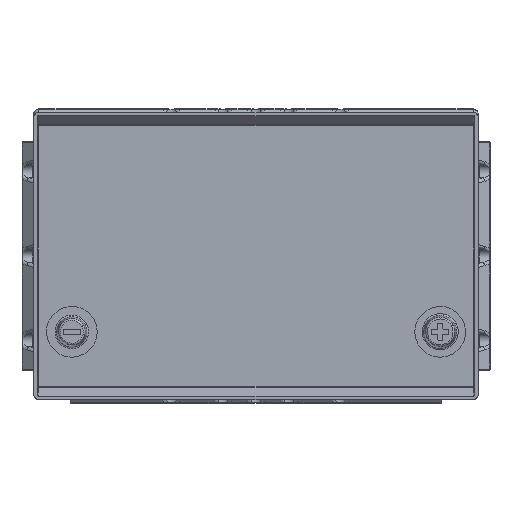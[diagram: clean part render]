
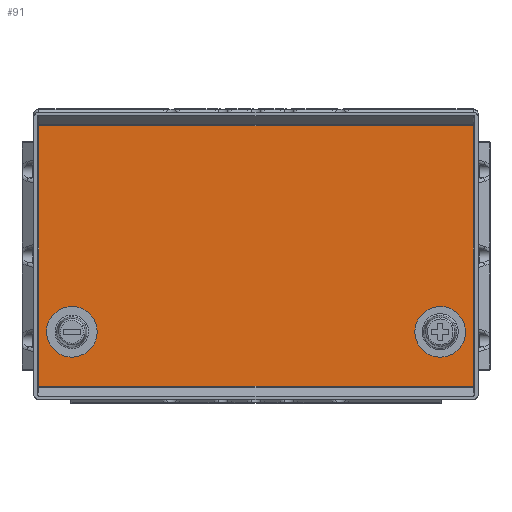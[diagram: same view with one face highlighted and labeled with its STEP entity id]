
A CAD part, top view. The second image highlights one B-rep face of the part: STEP entity #91.
In plain terms, the highlighted planar face has unit normal (0, 0, 1).
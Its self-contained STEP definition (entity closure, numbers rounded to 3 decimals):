
#52=CARTESIAN_POINT('Axis2P3D Location',(0.,0.,3.)) ;
#57=CARTESIAN_POINT('Line Origine',(0.,77.,3.)) ;
#61=CARTESIAN_POINT('Vertex',(128.5,77.,3.)) ;
#63=CARTESIAN_POINT('Vertex',(-128.5,77.,3.)) ;
#66=CARTESIAN_POINT('Line Origine',(-128.5,0.,3.)) ;
#70=CARTESIAN_POINT('Vertex',(-128.5,-77.,3.)) ;
#73=CARTESIAN_POINT('Line Origine',(0.,-77.,3.)) ;
#77=CARTESIAN_POINT('Vertex',(128.5,-77.,3.)) ;
#80=CARTESIAN_POINT('Line Origine',(128.5,0.,3.)) ;
#53=DIRECTION('Axis2P3D Direction',(0.,0.,-1.)) ;
#54=DIRECTION('Axis2P3D XDirection',(1.,0.,0.)) ;
#58=DIRECTION('Vector Direction',(-1.,0.,0.)) ;
#67=DIRECTION('Vector Direction',(0.,1.,0.)) ;
#74=DIRECTION('Vector Direction',(-1.,0.,0.)) ;
#81=DIRECTION('Vector Direction',(0.,1.,0.)) ;
#55=AXIS2_PLACEMENT_3D('Plane Axis2P3D',#52,#53,#54) ;
#86=ORIENTED_EDGE('',*,*,#65,.T.) ;
#87=ORIENTED_EDGE('',*,*,#72,.T.) ;
#88=ORIENTED_EDGE('',*,*,#79,.T.) ;
#89=ORIENTED_EDGE('',*,*,#84,.T.) ;
#59=VECTOR('Line Direction',#58,1.) ;
#68=VECTOR('Line Direction',#67,1.) ;
#75=VECTOR('Line Direction',#74,1.) ;
#82=VECTOR('Line Direction',#81,1.) ;
#91=ADVANCED_FACE('Lower standard attachment',(#90),#56,.F.) ;
#65=EDGE_CURVE('',#62,#64,#60,.T.) ;
#72=EDGE_CURVE('',#64,#71,#69,.F.) ;
#79=EDGE_CURVE('',#71,#78,#76,.F.) ;
#84=EDGE_CURVE('',#78,#62,#83,.T.) ;
#85=EDGE_LOOP('',(#86,#87,#88,#89)) ;
#90=FACE_OUTER_BOUND('',#85,.T.) ;
#60=LINE('Line',#57,#59) ;
#69=LINE('Line',#66,#68) ;
#76=LINE('Line',#73,#75) ;
#83=LINE('Line',#80,#82) ;
#56=PLANE('',#55) ;
#62=VERTEX_POINT('',#61) ;
#64=VERTEX_POINT('',#63) ;
#71=VERTEX_POINT('',#70) ;
#78=VERTEX_POINT('',#77) ;
